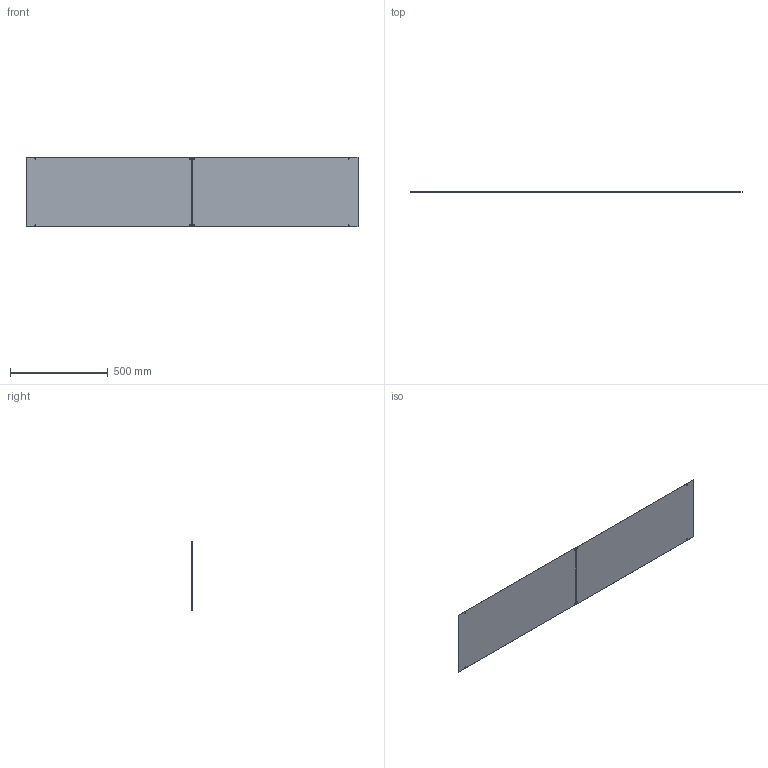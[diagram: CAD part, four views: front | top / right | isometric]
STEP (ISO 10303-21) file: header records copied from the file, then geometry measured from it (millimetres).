
FILE_DESCRIPTION(/* description */ (''),/* implementation_level */ '2;1');
FILE_NAME(/* name */ 'FR178E~1',/* time_stamp */ '2014-02-14T19:52:52+01:00',/* author */ (''),/* organization */ (''),/* preprocessor_version */ 'ST-DEVELOPER v14',/* originating_system */ '',/* authorisation */ '');
FILE_SCHEMA (('AUTOMOTIVE_DESIGN'));
Length unit declared in the file: millimetre
Products named in the file (1): Document
Bounding box: 1696 x 1 x 356 mm (x, y, z)
Volume: 602906.4 mm3; surface area: 1210750.6 mm2
Topology: 2 solids, 2 shells, 28 faces, 72 edges, 48 vertices
Faces by surface type: bspline 16, plane 12
Entity records: 1931 total; most frequent: CARTESIAN_POINT 974, ORIENTED_EDGE 144, PCURVE 144, DEFINITIONAL_REPRESENTATION 144, B_SPLINE_CURVE_WITH_KNOTS 136, SURFACE_CURVE 72, EDGE_CURVE 72, VERTEX_POINT 48
